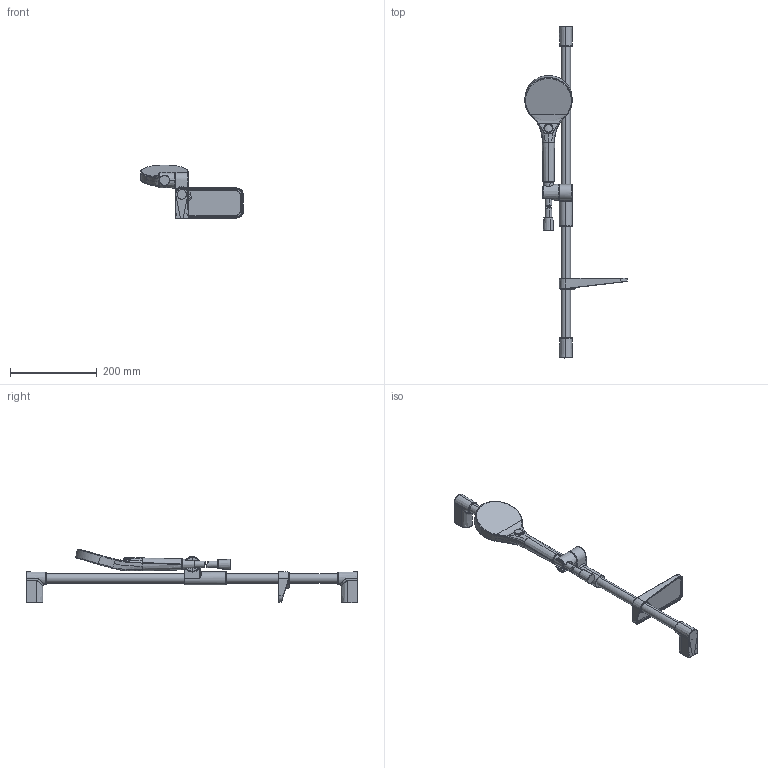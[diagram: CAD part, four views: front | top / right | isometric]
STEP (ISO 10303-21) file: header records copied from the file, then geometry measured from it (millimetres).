
FILE_DESCRIPTION (( 'STEP AP203' ), '1' );
FILE_NAME ('2790N-33(2023).STEP', '2023-03-27T11:44:45', ( '' ), ( '' ), 'SwSTEP 2.0', 'SolidWorks 2016', '' );
FILE_SCHEMA (( 'CONFIG_CONTROL_DESIGN' ));
Length unit declared in the file: millimetre
Products named in the file (1): 2790N-33(2023)
Bounding box: 236.39 x 765.19 x 124.35 mm (x, y, z)
Volume: 984461.2 mm3; surface area: 174905.4 mm2
Topology: 10 solids, 10 shells, 412 faces, 999 edges, 587 vertices
Faces by surface type: bspline 251, cone 48, cylinder 41, plane 38, torus 28, sphere 6
Entity records: 32464 total; most frequent: CARTESIAN_POINT 24768, ORIENTED_EDGE 1952, DIRECTION 1075, EDGE_CURVE 976, VERTEX_POINT 588, B_SPLINE_CURVE_WITH_KNOTS 489, AXIS2_PLACEMENT_3D 472, EDGE_LOOP 416
